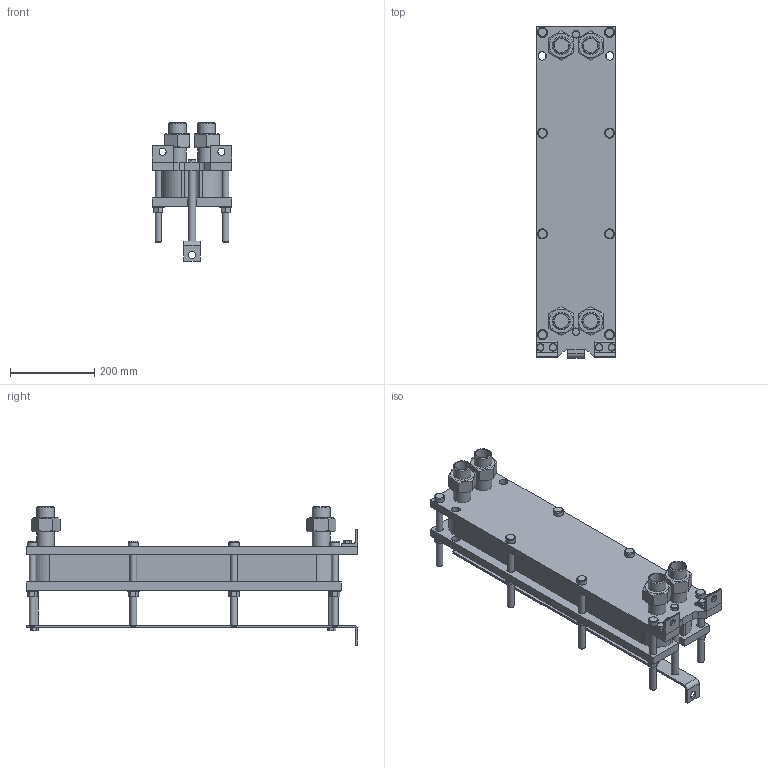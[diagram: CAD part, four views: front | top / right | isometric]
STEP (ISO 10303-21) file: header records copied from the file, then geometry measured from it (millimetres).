
FILE_DESCRIPTION(/* description */ (''),/* implementation_level */ '2;1');
FILE_NAME(/* name */ 'C:\Users\zhuro\Desktop\ENCO\TO\ЭН-008\ЭН-0,5-008-21-1.stp',/* time_stamp */ '2022-06-06T10:46:31+03:00',/* author */ ('zhuro'),/* organization */ (''),/* preprocessor_version */ 'ST-DEVELOPER v18.1',/* originating_system */ 'Autodesk Inventor 2022',/* authorisation */ '');
FILE_SCHEMA (('AUTOMOTIVE_DESIGN { 1 0 10303 214 3 1 1 }'));
Length unit declared in the file: millimetre
Products named in the file (1): ЭН-0,5-008-21-1
Bounding box: 190 x 790 x 329.8 mm (x, y, z)
Volume: 13274051.7 mm3; surface area: 1353277.2 mm2
Topology: 40 solids, 40 shells, 428 faces, 924 edges, 606 vertices
Faces by surface type: plane 273, cylinder 109, cone 40, torus 6
Full cylindrical faces by diameter (mm): 12 x6, 14 x2, 16 x20, 17 x8, 18 x19, 20 x5, 24 x8, 28 x8, 34.3 x8, 42.3 x8
Entity records: 15843 total; most frequent: CARTESIAN_POINT 5991, DIRECTION 1984, ORIENTED_EDGE 1848, EDGE_CURVE 924, AXIS2_PLACEMENT_3D 715, VERTEX_POINT 606, LINE 554, VECTOR 554
